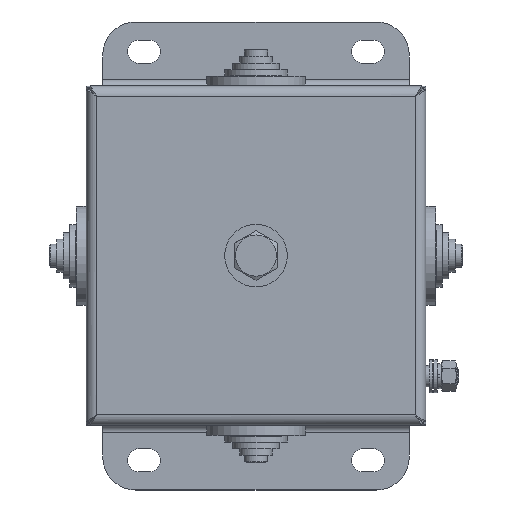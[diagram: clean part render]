
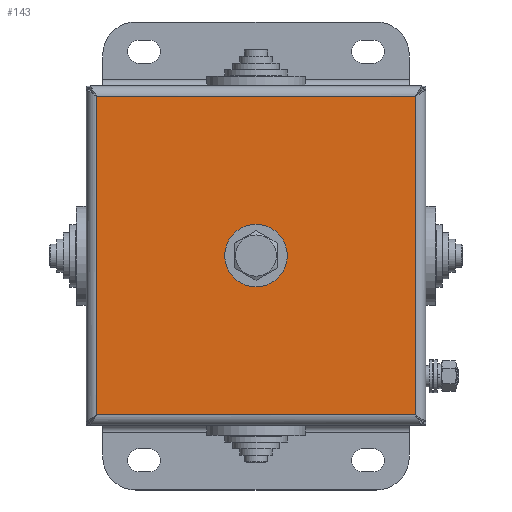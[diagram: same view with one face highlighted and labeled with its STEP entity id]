
A CAD part, top view. The second image highlights one B-rep face of the part: STEP entity #143.
In plain terms, the highlighted planar face has unit normal (0, 0, 1).
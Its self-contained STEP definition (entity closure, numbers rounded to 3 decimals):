
#143=ADVANCED_FACE('',(#8170,#8172),#8174,.T.);
#8170=FACE_BOUND('',#8171,.T.);
#8171=EDGE_LOOP('',(#15020,#15021,#15022,#15023));
#8172=FACE_BOUND('',#8173,.T.);
#8173=EDGE_LOOP('',(#15024));
#8174=PLANE('',#8175);
#8175=AXIS2_PLACEMENT_3D('',#8176,#8177,#8178);
#8176=CARTESIAN_POINT('',(0.,0.,61.7));
#8177=DIRECTION('',(0.,-0.,1.));
#8178=DIRECTION('',(0.,1.,0.));
#15020=ORIENTED_EDGE('',*,*,#20293,.T.);
#15021=ORIENTED_EDGE('',*,*,#20294,.T.);
#15022=ORIENTED_EDGE('',*,*,#20295,.T.);
#15023=ORIENTED_EDGE('',*,*,#20296,.T.);
#15024=ORIENTED_EDGE('',*,*,#20244,.T.);
#20244=EDGE_CURVE('',#22488,#22488,#22489,.F.);
#20293=EDGE_CURVE('',#22582,#22583,#22584,.T.);
#20294=EDGE_CURVE('',#22583,#22585,#22586,.T.);
#20295=EDGE_CURVE('',#22585,#22587,#22588,.T.);
#20296=EDGE_CURVE('',#22587,#22582,#22589,.T.);
#22488=VERTEX_POINT('',#26229);
#22489=CIRCLE('',#26230,8.5);
#22582=VERTEX_POINT('',#26441);
#22583=VERTEX_POINT('',#26442);
#22584=LINE('',#26443,#26444);
#22585=VERTEX_POINT('',#26446);
#22586=LINE('',#26447,#26448);
#22587=VERTEX_POINT('',#26450);
#22588=LINE('',#26451,#26452);
#22589=LINE('',#26454,#26455);
#26229=CARTESIAN_POINT('',(-8.5,0.,61.7));
#26230=AXIS2_PLACEMENT_3D('',#26231,#26232,#26233);
#26231=CARTESIAN_POINT('',(0.,0.,61.7));
#26232=DIRECTION('',(0.,-0.,1.));
#26233=DIRECTION('',(-1.,0.,0.));
#26441=CARTESIAN_POINT('',(48.3,48.3,61.7));
#26442=CARTESIAN_POINT('',(-48.3,48.3,61.7));
#26443=CARTESIAN_POINT('',(48.3,48.3,61.7));
#26444=VECTOR('',#26445,1.);
#26445=DIRECTION('',(-1.,0.,0.));
#26446=CARTESIAN_POINT('',(-48.3,-48.3,61.7));
#26447=CARTESIAN_POINT('',(-48.3,48.3,61.7));
#26448=VECTOR('',#26449,1.);
#26449=DIRECTION('',(0.,-1.,0.));
#26450=CARTESIAN_POINT('',(48.3,-48.3,61.7));
#26451=CARTESIAN_POINT('',(-48.3,-48.3,61.7));
#26452=VECTOR('',#26453,1.);
#26453=DIRECTION('',(1.,0.,0.));
#26454=CARTESIAN_POINT('',(48.3,-48.3,61.7));
#26455=VECTOR('',#26456,1.);
#26456=DIRECTION('',(0.,1.,0.));
